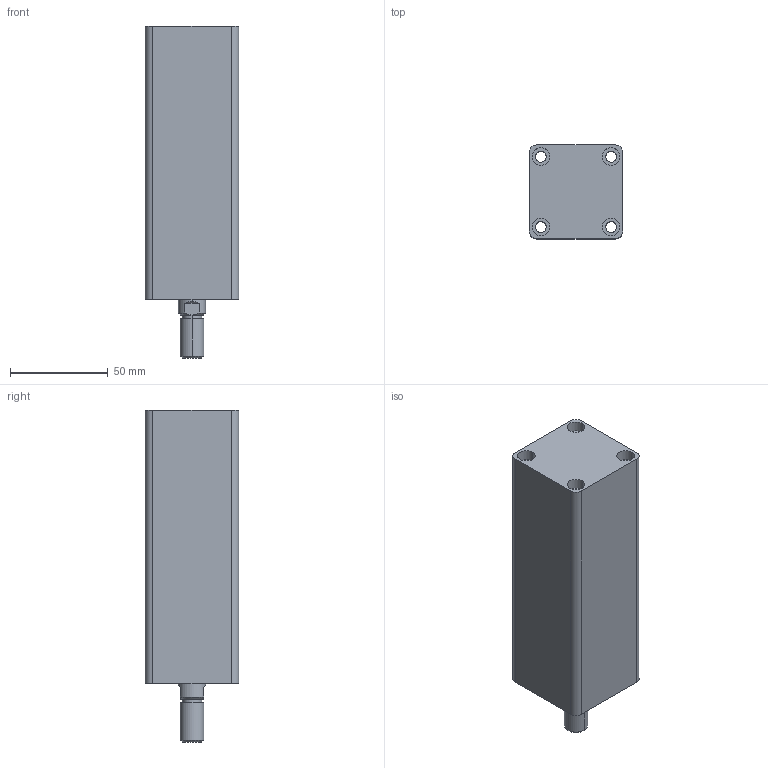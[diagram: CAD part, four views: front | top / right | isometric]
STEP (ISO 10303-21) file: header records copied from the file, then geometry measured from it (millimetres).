
FILE_DESCRIPTION (( 'STEP AP203' ), '1' );
FILE_NAME ('HTB-SD25-95W.STEP', '2019-10-07T06:21:27', ( '微软用户' ), ( '微软中国' ), 'SwSTEP 2.0', 'SolidWorks 2012', '' );
FILE_SCHEMA (( 'CONFIG_CONTROL_DESIGN' ));
Length unit declared in the file: millimetre
Products named in the file (3): HTB-SD25-95掛极; HTB-SD25-95W活塞杆; HTB-SD25-95W
Assembly tree (2 placements, depth 2):
  HTB-SD25-95W
    HTB-SD25-95掛极
    HTB-SD25-95W活塞杆
Bounding box: 48 x 48 x 170 mm (x, y, z)
Volume: 275669.8 mm3; surface area: 59814.5 mm2
Topology: 2 solids, 2 shells, 87 faces, 188 edges, 122 vertices
Faces by surface type: cylinder 44, plane 29, cone 8, torus 6
Entity records: 2759 total; most frequent: DIRECTION 476, CARTESIAN_POINT 446, ORIENTED_EDGE 376, AXIS2_PLACEMENT_3D 204, EDGE_CURVE 188, VERTEX_POINT 122, CIRCLE 112, EDGE_LOOP 112
